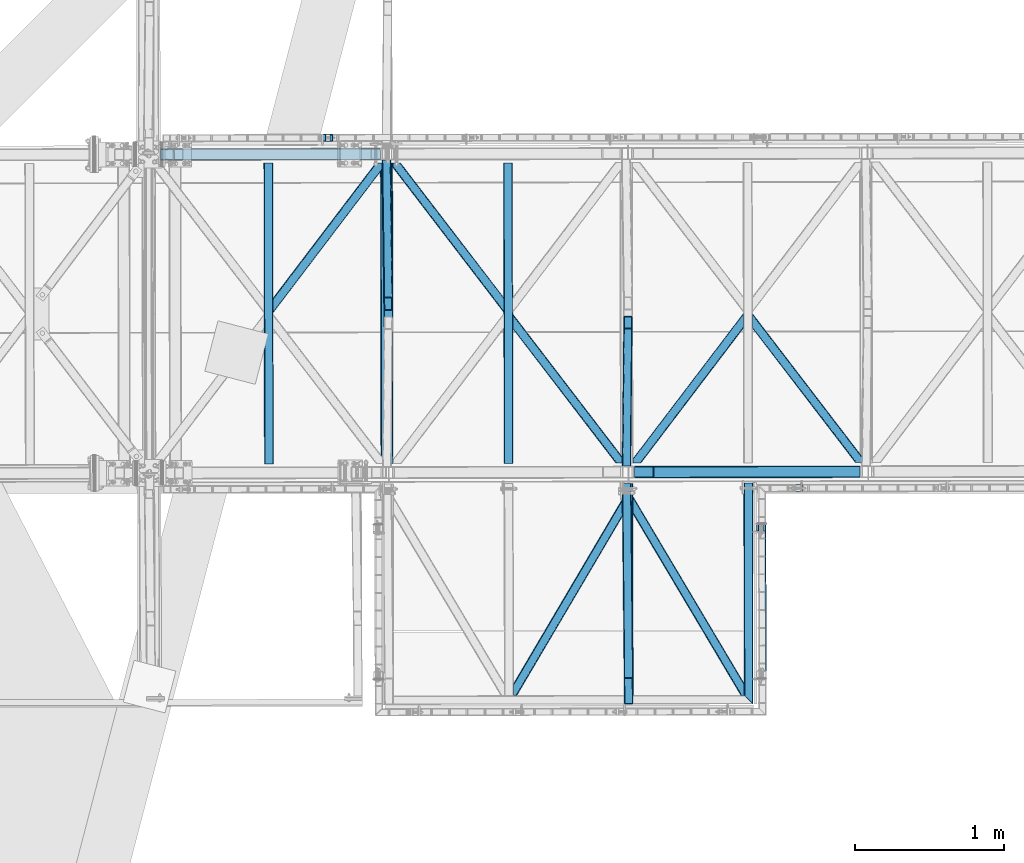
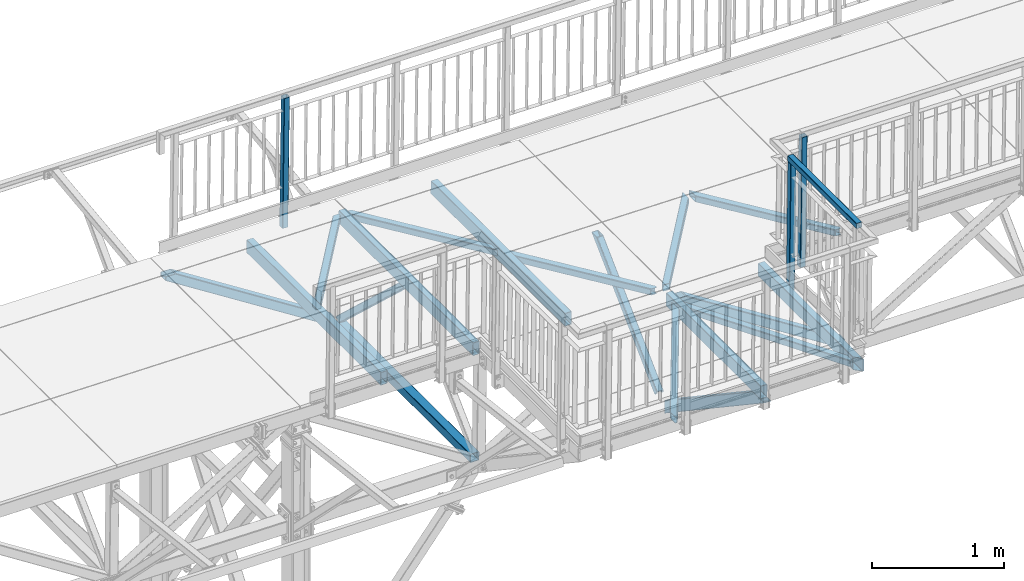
# One storey, part 56 of 169: 22 discrete accessories, 5 elements without a shape of their own.
"""IFC2X3 building model written with IfcOpenShell, lengths in millimetres."""

from ifc_helpers import new_model, si_unit, frame, origin_with_axes, origin_2d_with_axis, place, context, subcontext, project, spatial, polyline, rectangle, hollow_rectangle, outline, extrude, boolean, clip, halfspace, material, type_object, element, aggregate, save


model = new_model("IFC2X3")

# Units and contexts
model_context = context("Model", 3, precision=1e-05, world=origin_with_axes())
body_context = subcontext(model_context, "Body", "Model", "MODEL_VIEW")
ifc_project = project(units=[si_unit("LENGTHUNIT", "METRE", prefix="MILLI"), si_unit("AREAUNIT", "SQUARE_METRE"), si_unit("VOLUMEUNIT", "CUBIC_METRE"), si_unit("MASSUNIT", "GRAM", prefix="KILO"), si_unit("TIMEUNIT", "SECOND"), si_unit("PLANEANGLEUNIT", "RADIAN"), si_unit("SOLIDANGLEUNIT", "STERADIAN"), si_unit("THERMODYNAMICTEMPERATUREUNIT", "DEGREE_CELSIUS"), si_unit("LUMINOUSINTENSITYUNIT", "LUMEN")], contexts=[model_context])

# Site, building, storey
site_placement = place(None, origin_with_axes())
site = spatial("IfcSite", under=ifc_project, at=site_placement, Name="Undefined", CompositionType="ELEMENT")
building_placement = place(site_placement, origin_with_axes())
building = spatial("IfcBuilding", under=site, at=building_placement, Name="Undefined", CompositionType="ELEMENT")
storey_placement = place(building_placement, origin_with_axes())
storey = spatial("IfcBuildingStorey", under=building, at=storey_placement, Name="Undefined", CompositionType="ELEMENT", Elevation=0.0)

# Assembly, discrete accessories
assembly_1_placement = place(storey_placement, origin_with_axes())
assembly_1 = element("IfcElementAssembly", 1, at=assembly_1_placement, inside=storey, Name="Steel Assembly", AssemblyPlace="NOTDEFINED", PredefinedType="RIGID_FRAME")
ifc_material_1 = material(Name="STEEL/S355")
discrete_accessory_type_1 = type_object("IfcDiscreteAccessoryType", Name="BEAM")
discrete_accessory_1_placement = place(assembly_1_placement, frame((9342.88013170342, -47.5630628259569, 13835.4893928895), z_axis=(0.859527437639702, 0.510972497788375, -0.0109403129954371), x_axis=(0.510931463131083, -0.859597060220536, -0.00647565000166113)))
discrete_accessory_1 = element("IfcDiscreteAccessory", 2, at=discrete_accessory_1_placement, type_object=discrete_accessory_type_1, material=ifc_material_1, Name="BEAM", ObjectType="K60/4", context=body_context, shape_type="CSG", body=[
    boolean("DIFFERENCE", boolean("DIFFERENCE", boolean("DIFFERENCE", extrude(hollow_rectangle(XDim=60.0, YDim=60.0, WallThickness=4.0, InnerFilletRadius=4.0, OuterFilletRadius=8.0, at=origin_2d_with_axis()), frame((1597.10981986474, -1.81898940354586e-12, -4.35061971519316e-15), z_axis=(-1.0, -3.46944695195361e-18, -1.38777878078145e-17), x_axis=(1.73472347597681e-18, -1.0, 0.0)), (0.0, 0.0, 1.0), 1589.8), extrude(rectangle(XDim=62.0, YDim=122.0, at=origin_2d_with_axis()), frame((1692.25917883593, -3.13746253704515e-07, -66.2180064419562), z_axis=(-0.860548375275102, -1.48752412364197e-10, 0.509368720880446), x_axis=(0.509368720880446, 6.07768418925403e-11, 0.860548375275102)), (0.0, 0.0, 1.0), 260.0)), halfspace(frame((1045.20244840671, 5.58022293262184e-07, -845.267314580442), z_axis=(-0.860548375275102, -1.48752412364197e-10, 0.509368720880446), x_axis=(0.0, 1.0, 0.0)), True)), halfspace(frame((-845.267165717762, 7.34871719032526e-10, 535.185172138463), z_axis=(0.509368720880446, 6.07768418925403e-11, 0.860548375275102), x_axis=(0.0, 1.0, 0.0)), True)),
])
discrete_accessory_2_placement = place(assembly_1_placement, frame((9342.88020687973, -47.5630622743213, 13835.4893919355), z_axis=(-0.861427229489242, 0.507763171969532, 0.0109402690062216), x_axis=(-0.507721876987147, -0.861496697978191, 0.00647572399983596)))
discrete_accessory_2 = element("IfcDiscreteAccessory", 3, at=discrete_accessory_2_placement, type_object=discrete_accessory_type_1, material=ifc_material_1, Name="BEAM", ObjectType="K60/4", context=body_context, shape_type="CSG", body=[
    boolean("DIFFERENCE", boolean("DIFFERENCE", boolean("DIFFERENCE", extrude(hollow_rectangle(XDim=60.0, YDim=60.0, WallThickness=4.0, InnerFilletRadius=4.0, OuterFilletRadius=8.0, at=origin_2d_with_axis()), frame((1597.22123196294, -1.38536858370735e-15, 9.99132378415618e-13), z_axis=(-1.0, -3.46944695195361e-18, -1.38777878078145e-17), x_axis=(1.73472347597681e-18, -1.0, 0.0)), (0.0, 0.0, 1.0), 1590.02), extrude(rectangle(XDim=62.0, YDim=122.0, at=origin_2d_with_axis()), frame((1692.25891306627, 2.39566858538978e-07, -66.2179352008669), z_axis=(-0.860548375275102, -1.48752412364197e-10, 0.509368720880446), x_axis=(-0.509368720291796, -2.23282331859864e-10, -0.860548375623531)), (0.0, 0.0, 1.0), 260.0)), halfspace(frame((2063.9398899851, -1.91666913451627e-08, 875.829436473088), z_axis=(-0.860548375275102, -1.48752412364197e-10, 0.509368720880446), x_axis=(1.73472347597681e-18, -1.0, 0.0)), True)), halfspace(frame((-845.267314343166, 8.45648173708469e-09, 535.185171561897), z_axis=(0.509368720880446, 6.07768418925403e-11, 0.860548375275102), x_axis=(0.0, 1.0, 0.0)), True)),
])
discrete_accessory_3_placement = place(assembly_1_placement, frame((9329.67632224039, 90.1475203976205, 12817.1742033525), z_axis=(-0.00954354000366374, -0.554718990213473, -0.831983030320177), x_axis=(0.00860362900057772, -0.832035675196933, 0.554655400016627)))
discrete_accessory_3 = element("IfcDiscreteAccessory", 4, at=discrete_accessory_3_placement, type_object=discrete_accessory_type_1, material=ifc_material_1, Name="BEAM", ObjectType="RHS100*60*3", context=body_context, shape_type="Clipping", body=[
    clip(clip(extrude(hollow_rectangle(XDim=60.0, YDim=100.0, WallThickness=3.0, InnerFilletRadius=3.0, OuterFilletRadius=6.0, at=origin_2d_with_axis()), frame((1838.237499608, 1.81739498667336e-12, -1.51286136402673e-12), z_axis=(-1.0, -3.46944695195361e-18, -1.38777878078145e-17), x_axis=(1.73472347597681e-18, -1.0, 0.0)), (0.0, 0.0, 1.0), 1838.24), halfspace(frame((84.690342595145, 30.0, -50.0), z_axis=(-0.832050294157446, 3.38378720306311e-06, -0.554700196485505), x_axis=(-0.55470019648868, 4.88944351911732e-11, 0.83205029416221)), False)), halfspace(frame((2634.71045787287, 1.16597220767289e-09, 604.623214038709), z_axis=(-0.55470019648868, 4.88944351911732e-11, 0.83205029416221), x_axis=(1.73472347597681e-18, -1.0, 0.0)), True)),
])
discrete_accessory_4_placement = place(assembly_1_placement, frame((10147.6086376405, 63.9378286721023, 13825.2552919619), z_axis=(-0.012713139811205, -2.37511238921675e-05, -0.999919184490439), x_axis=(0.00186484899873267, -0.999998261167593, 4.28757666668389e-08)))
discrete_accessory_4 = element("IfcDiscreteAccessory", 5, at=discrete_accessory_4_placement, type_object=discrete_accessory_type_1, material=ifc_material_1, Name="BEAM", ObjectType="RHS120*60*3", context=body_context, shape_type="Clipping", body=[
    clip(clip(extrude(hollow_rectangle(XDim=60.0, YDim=120.0, WallThickness=3.0, InnerFilletRadius=3.0, OuterFilletRadius=6.0, at=origin_2d_with_axis()), frame((1500.41875808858, 1.8489777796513e-16, 4.81553515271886e-18), z_axis=(-1.0, -3.46944695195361e-18, -1.38777878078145e-17), x_axis=(1.73472347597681e-18, -1.0, 0.0)), (0.0, 0.0, 1.0), 1485.42), halfspace(frame((1500.00000029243, -30.0000000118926, 9.23155312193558e-08), z_axis=(-0.707106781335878, -0.707106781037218, 2.34571939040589e-10), x_axis=(-2.54700353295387e-10, 0.0, -1.0)), True)), halfspace(frame((14.999999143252, -1.08593667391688e-09, -159.999999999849), z_axis=(-1.0, -3.46944695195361e-18, -1.38777878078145e-17), x_axis=(0.0, 1.0, 0.0)), False)),
])
discrete_accessory_5_placement = place(assembly_1_placement, frame((9342.67507366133, 62.4367464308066, 13835.489387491), z_axis=(-0.012713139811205, -2.37511238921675e-05, -0.999919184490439), x_axis=(0.00186484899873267, -0.999998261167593, 4.28757666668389e-08)))
discrete_accessory_5 = element("IfcDiscreteAccessory", 6, at=discrete_accessory_5_placement, type_object=discrete_accessory_type_1, material=ifc_material_1, Name="BEAM", ObjectType="RHS120*60*3", context=body_context, shape_type="Clipping", body=[
    clip(clip(extrude(hollow_rectangle(XDim=60.0, YDim=120.0, WallThickness=3.0, InnerFilletRadius=3.0, OuterFilletRadius=6.0, at=origin_2d_with_axis()), frame((1439.99999969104, 4.90047387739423e-16, 6.78473390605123e-18), z_axis=(-1.0, -3.46944695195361e-18, -1.38777878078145e-17), x_axis=(1.73472347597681e-18, -1.0, 0.0)), (0.0, 0.0, 1.0), 1425.0), halfspace(frame((1439.99999981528, 6.08997652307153e-09, -1000.00000000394), z_axis=(-1.0, -3.46944695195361e-18, -1.38777878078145e-17), x_axis=(0.0, 1.0, 0.0)), True)), halfspace(frame((14.999999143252, -1.08593667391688e-09, -159.999999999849), z_axis=(-1.0, -3.46944695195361e-18, -1.38777878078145e-17), x_axis=(0.0, 1.0, 0.0)), False)),
])
aggregate(assembly_1, [discrete_accessory_1, discrete_accessory_2, discrete_accessory_3, discrete_accessory_4, discrete_accessory_5])

# Assembly, discrete accessory
assembly_2_placement = place(storey_placement, origin_with_axes())
assembly_2 = element("IfcElementAssembly", 7, at=assembly_2_placement, inside=storey, Name="Steel Assembly", AssemblyPlace="NOTDEFINED", PredefinedType="RIGID_FRAME")
discrete_accessory_6_placement = place(assembly_2_placement, frame((9342.56318086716, 122.436643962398, 13835.4892744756), z_axis=(0.538381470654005, 0.00100403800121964, 0.842700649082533), x_axis=(0.842699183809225, 0.00157148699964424, -0.538382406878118)))
discrete_accessory_6 = element("IfcDiscreteAccessory", 8, at=discrete_accessory_6_placement, type_object=discrete_accessory_type_1, material=ifc_material_1, Name="BEAM", ObjectType="K80/4", context=body_context, shape_type="CSG", body=[
    boolean("DIFFERENCE", boolean("DIFFERENCE", boolean("DIFFERENCE", boolean("DIFFERENCE", extrude(hollow_rectangle(XDim=80.0, YDim=80.0, WallThickness=4.0, InnerFilletRadius=4.0, OuterFilletRadius=8.0, at=origin_2d_with_axis()), frame((1895.28365458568, 2.8368149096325e-14, 0.0), z_axis=(-1.0, -3.46944695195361e-18, -1.38777878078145e-17), x_axis=(1.73472347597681e-18, -1.0, 0.0)), (0.0, 0.0, 1.0), 1895.28), extrude(rectangle(XDim=122.0, YDim=122.0, at=origin_2d_with_axis()), frame((1733.78268027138, -4.16628931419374e-06, 1076.88375380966), z_axis=(-0.849477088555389, 2.61340201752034e-10, -0.527625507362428), x_axis=(0.527625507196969, -3.47074672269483e-10, -0.849477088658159)), (0.0, 0.0, 1.0), 4082.0)), extrude(rectangle(XDim=82.0, YDim=82.0, at=origin_2d_with_axis()), frame((-1078.99478598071, 3.71883953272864e-07, 1737.1816513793), z_axis=(0.527625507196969, -3.47074672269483e-10, -0.849477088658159), x_axis=(1.73472347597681e-18, -1.0, 0.0)), (0.0, 0.0, 1.0), 4090.0)), extrude(rectangle(XDim=82.0, YDim=82.0, at=origin_2d_with_axis()), frame((799.406100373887, 1.9632717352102e-07, 1764.36290814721), z_axis=(0.527625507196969, -3.47074672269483e-10, -0.849477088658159), x_axis=(1.73472347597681e-18, -1.0, 0.0)), (0.0, 0.0, 1.0), 4154.0)), extrude(rectangle(XDim=122.0, YDim=122.0, at=origin_2d_with_axis()), frame((3629.06603329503, -3.96512357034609e-06, 1076.8835670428), z_axis=(-0.849477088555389, 2.61340201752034e-10, -0.527625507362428), x_axis=(0.527625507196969, -3.47074672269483e-10, -0.849477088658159)), (0.0, 0.0, 1.0), 4082.0)),
])

# Assembly, discrete accessories
assembly_3_placement = place(storey_placement, origin_with_axes())
assembly_3 = element("IfcElementAssembly", 9, at=assembly_3_placement, inside=storey, Name="Steel Assembly", AssemblyPlace="NOTDEFINED", PredefinedType="RIGID_FRAME")
discrete_accessory_7_placement = place(assembly_3_placement, frame((10145.5293282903, 1178.93599661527, 13825.2551331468), z_axis=(-0.793802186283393, -0.608092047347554, 0.0101069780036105), x_axis=(0.608043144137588, -0.793866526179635, -0.00771190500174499)))
discrete_accessory_7 = element("IfcDiscreteAccessory", 10, at=discrete_accessory_7_placement, type_object=discrete_accessory_type_1, material=ifc_material_1, Name="BEAM", ObjectType="K60/4", context=body_context, shape_type="CSG", body=[
    boolean("DIFFERENCE", boolean("DIFFERENCE", boolean("DIFFERENCE", extrude(hollow_rectangle(XDim=60.0, YDim=60.0, WallThickness=4.0, InnerFilletRadius=4.0, OuterFilletRadius=8.0, at=origin_2d_with_axis()), frame((1327.04560324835, -1.81783837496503e-12, 1.8913063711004e-12), z_axis=(-1.0, -3.46944695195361e-18, -1.38777878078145e-17), x_axis=(1.73472347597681e-18, -1.0, 0.0)), (0.0, 0.0, 1.0), 1317.77), extrude(rectangle(XDim=122.0, YDim=122.0, at=origin_2d_with_axis()), frame((2559.07206009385, 0.000108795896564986, -1614.6431455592), z_axis=(-0.606610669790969, 1.9093520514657e-10, 0.794999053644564), x_axis=(1.73472347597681e-18, -1.0, 0.0)), (0.0, 0.0, 1.0), 4062.0)), extrude(rectangle(XDim=62.0, YDim=122.0, at=origin_2d_with_axis()), frame((-311.447359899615, 7.92361939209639e-07, -1250.22452235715), z_axis=(0.794999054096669, -5.08714775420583e-10, 0.606610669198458), x_axis=(0.606610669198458, -3.85695368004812e-10, -0.79499905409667)), (0.0, 0.0, 1.0), 4122.0)), halfspace(frame((813.19737539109, -1.17615854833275e-08, 582.760697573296), z_axis=(0.606610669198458, -3.85695368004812e-10, -0.79499905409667), x_axis=(0.0, 1.0, 0.0)), True)),
])
discrete_accessory_8_placement = place(assembly_3_placement, frame((9342.56318070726, 122.436748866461, 13835.4892744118), z_axis=(0.796064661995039, -0.605127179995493, -0.0101069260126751), x_axis=(0.605078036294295, 0.796128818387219, -0.00771197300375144)))
discrete_accessory_8 = element("IfcDiscreteAccessory", 11, at=discrete_accessory_8_placement, type_object=discrete_accessory_type_1, material=ifc_material_1, Name="BEAM", ObjectType="K60/4", context=body_context, shape_type="CSG", body=[
    boolean("DIFFERENCE", boolean("DIFFERENCE", boolean("DIFFERENCE", extrude(hollow_rectangle(XDim=60.0, YDim=60.0, WallThickness=4.0, InnerFilletRadius=4.0, OuterFilletRadius=8.0, at=origin_2d_with_axis()), frame((1317.88045895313, 1.14307908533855e-15, -1.87685778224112e-12), z_axis=(-1.0, -3.46944695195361e-18, -1.38777878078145e-17), x_axis=(1.73472347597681e-18, -1.0, 0.0)), (0.0, 0.0, 1.0), 1317.88), extrude(rectangle(XDim=122.0, YDim=122.0, at=origin_2d_with_axis()), frame((1232.02617983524, 0.000108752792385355, 1614.64314702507), z_axis=(-0.606610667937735, 2.83045446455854e-10, -0.794999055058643), x_axis=(1.73472347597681e-18, -1.0, 0.0)), (0.0, 0.0, 1.0), 4062.0)), extrude(rectangle(XDim=62.0, YDim=122.0, at=origin_2d_with_axis()), frame((1638.49296551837, -1.93246750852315e-06, -1250.22451956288), z_axis=(-0.794999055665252, -4.2238609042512e-08, 0.606610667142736), x_axis=(0.606610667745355, -4.65838344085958e-10, 0.794999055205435)), (0.0, 0.0, 1.0), 4122.0)), halfspace(frame((513.848229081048, 1.26783561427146e-08, 582.760696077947), z_axis=(-0.606610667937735, 2.83045446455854e-10, -0.794999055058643), x_axis=(1.73472347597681e-18, -1.0, 0.0)), True)),
])
discrete_accessory_9_placement = place(assembly_3_placement, frame((8535.66219990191, 1175.9338321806, 13845.7233241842), z_axis=(-0.793802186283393, -0.608092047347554, 0.0101069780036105), x_axis=(0.608043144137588, -0.793866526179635, -0.00771190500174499)))
discrete_accessory_9 = element("IfcDiscreteAccessory", 12, at=discrete_accessory_9_placement, type_object=discrete_accessory_type_1, material=ifc_material_1, Name="BEAM", ObjectType="K60/4", context=body_context, shape_type="CSG", body=[
    boolean("DIFFERENCE", boolean("DIFFERENCE", boolean("DIFFERENCE", extrude(hollow_rectangle(XDim=60.0, YDim=60.0, WallThickness=4.0, InnerFilletRadius=4.0, OuterFilletRadius=8.0, at=origin_2d_with_axis()), frame((1327.04560324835, -1.81783837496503e-12, 1.8913063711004e-12), z_axis=(-1.0, -3.46944695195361e-18, -1.38777878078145e-17), x_axis=(1.73472347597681e-18, -1.0, 0.0)), (0.0, 0.0, 1.0), 1317.77), extrude(rectangle(XDim=122.0, YDim=122.0, at=origin_2d_with_axis()), frame((2559.07206009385, 0.000108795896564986, -1614.6431455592), z_axis=(-0.606610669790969, 1.9093520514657e-10, 0.794999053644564), x_axis=(1.73472347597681e-18, -1.0, 0.0)), (0.0, 0.0, 1.0), 4062.0)), extrude(rectangle(XDim=62.0, YDim=122.0, at=origin_2d_with_axis()), frame((-311.447359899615, 7.92361939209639e-07, -1250.22452235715), z_axis=(0.794999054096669, -5.08714775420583e-10, 0.606610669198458), x_axis=(0.606610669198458, -3.85695368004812e-10, -0.79499905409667)), (0.0, 0.0, 1.0), 4122.0)), halfspace(frame((813.19737539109, -1.17615854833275e-08, 582.760697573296), z_axis=(0.606610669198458, -3.85695368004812e-10, -0.79499905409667), x_axis=(0.0, 1.0, 0.0)), True)),
])
discrete_accessory_10_placement = place(assembly_3_placement, frame((7728.70527414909, 2259.43086332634, 13855.9573728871), z_axis=(-0.793802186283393, -0.608092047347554, 0.0101069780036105), x_axis=(0.608043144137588, -0.793866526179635, -0.00771190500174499)))
discrete_accessory_10 = element("IfcDiscreteAccessory", 13, at=discrete_accessory_10_placement, type_object=discrete_accessory_type_1, material=ifc_material_1, Name="BEAM", ObjectType="K60/4", context=body_context, shape_type="CSG", body=[
    boolean("DIFFERENCE", boolean("DIFFERENCE", boolean("DIFFERENCE", extrude(hollow_rectangle(XDim=60.0, YDim=60.0, WallThickness=4.0, InnerFilletRadius=4.0, OuterFilletRadius=8.0, at=origin_2d_with_axis()), frame((1317.7688721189, 1.14298229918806e-15, -1.89206883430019e-12), z_axis=(-1.0, -3.46944695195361e-18, -1.38777878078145e-17), x_axis=(1.73472347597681e-18, -1.0, 0.0)), (0.0, 0.0, 1.0), 1317.77), extrude(rectangle(XDim=122.0, YDim=122.0, at=origin_2d_with_axis()), frame((1232.02636237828, 0.000109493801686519, -1614.64300936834), z_axis=(-0.606610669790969, 1.9093520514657e-10, 0.794999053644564), x_axis=(0.0, 1.0, 0.0)), (0.0, 0.0, 1.0), 4062.0)), extrude(rectangle(XDim=62.0, YDim=122.0, at=origin_2d_with_axis()), frame((-1638.49305022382, 1.48884142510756e-06, -1250.22459069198), z_axis=(0.794999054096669, -5.08714775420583e-10, 0.606610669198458), x_axis=(0.606610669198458, -3.85695368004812e-10, -0.79499905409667)), (0.0, 0.0, 1.0), 4122.0)), halfspace(frame((2103.84633729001, 1.13759597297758e-08, 630.460640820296), z_axis=(-0.606610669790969, 1.9093520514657e-10, 0.794999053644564), x_axis=(1.73472347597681e-18, -1.0, 0.0)), True)),
])
discrete_accessory_11_placement = place(assembly_3_placement, frame((8537.62961634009, 120.935666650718, 13845.7233698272), z_axis=(0.012713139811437, 2.3750999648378e-05, 0.999919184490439), x_axis=(-0.0018648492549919, 0.999998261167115, -4.2996762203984e-08)))
discrete_accessory_11 = element("IfcDiscreteAccessory", 14, at=discrete_accessory_11_placement, type_object=discrete_accessory_type_1, material=ifc_material_1, Name="BEAM", ObjectType="RHS120*60*3", context=body_context, shape_type="Clipping", body=[
    clip(clip(extrude(hollow_rectangle(XDim=60.0, YDim=120.0, WallThickness=3.0, InnerFilletRadius=3.0, OuterFilletRadius=6.0, at=origin_2d_with_axis()), frame((2079.99988425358, -2.58114747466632e-16, -1.81898421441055e-12), z_axis=(-1.0, -3.46944695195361e-18, -1.38777878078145e-17), x_axis=(1.73472347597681e-18, -1.0, 0.0)), (0.0, 0.0, 1.0), 2020.0), halfspace(frame((2079.99984112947, 4.96547727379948e-08, 999.999997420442), z_axis=(-1.0, -3.46944695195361e-18, -1.38777878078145e-17), x_axis=(1.73472347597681e-18, -1.0, 0.0)), True)), halfspace(frame((59.9998947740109, 1.52502366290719e-08, 999.99999999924), z_axis=(1.0, 0.0, 0.0), x_axis=(0.0, 1.0, 0.0)), True)),
])

# Discrete accessory
discrete_accessory_12_placement = place(assembly_2_placement, frame((6118.83814573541, 2256.42869892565, 13876.4255639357), z_axis=(0.538381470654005, 0.00100403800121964, 0.842700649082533), x_axis=(0.842699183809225, 0.00157148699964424, -0.538382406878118)))
discrete_accessory_12 = element("IfcDiscreteAccessory", 15, at=discrete_accessory_12_placement, type_object=discrete_accessory_type_1, material=ifc_material_1, Name="BEAM", ObjectType="K80/4", context=body_context, shape_type="CSG", body=[
    boolean("DIFFERENCE", boolean("DIFFERENCE", boolean("DIFFERENCE", boolean("DIFFERENCE", extrude(hollow_rectangle(XDim=80.0, YDim=80.0, WallThickness=4.0, InnerFilletRadius=4.0, OuterFilletRadius=8.0, at=origin_2d_with_axis()), frame((1895.28365458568, 2.8368149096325e-14, 0.0), z_axis=(-1.0, -3.46944695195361e-18, -1.38777878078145e-17), x_axis=(1.73472347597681e-18, -1.0, 0.0)), (0.0, 0.0, 1.0), 1895.28), extrude(rectangle(XDim=122.0, YDim=122.0, at=origin_2d_with_axis()), frame((1716.88204289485, -0.000102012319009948, 1066.38646662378), z_axis=(-0.849477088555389, 2.61340201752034e-10, -0.527625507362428), x_axis=(-0.527625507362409, 4.58604519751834e-10, 0.849477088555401)), (0.0, 0.0, 1.0), 4042.21)), extrude(outline(polyline([(0.0, 0.0), (90.0941009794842, 2.50111042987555e-10), (90.0941009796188, 80.0000000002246), (1.40171323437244e-08, 80.0000000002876), (0.0, 0.0)])), frame((149.971323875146, 42.9999901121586, -83.5613345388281), z_axis=(1.73472347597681e-18, -1.0, 0.0), x_axis=(-0.538382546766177, -4.22125940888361e-08, 0.842700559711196)), (0.0, 0.0, 1.0), 86.0)), extrude(rectangle(XDim=82.0, YDim=82.0, at=origin_2d_with_axis()), frame((807.847426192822, 1.91307743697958e-07, 1750.77237320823), z_axis=(0.527625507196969, -3.47074672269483e-10, -0.849477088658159), x_axis=(1.73472347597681e-18, -1.0, 0.0)), (0.0, 0.0, 1.0), 4122.0)), extrude(rectangle(XDim=122.0, YDim=122.0, at=origin_2d_with_axis()), frame((3629.23882569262, -3.99359470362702e-06, 1076.99089160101), z_axis=(-0.849477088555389, 2.61340201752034e-10, -0.527625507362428), x_axis=(0.527625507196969, -3.47074672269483e-10, -0.849477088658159)), (0.0, 0.0, 1.0), 4082.41)),
])

aggregate(assembly_2, [discrete_accessory_6, discrete_accessory_12])

discrete_accessory_13_placement = place(assembly_3_placement, frame((9329.85004109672, 122.412997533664, 12835.5700898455), z_axis=(-0.0105615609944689, 0.682786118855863, -0.730541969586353), x_axis=(0.00731813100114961, 0.730615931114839, 0.682749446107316)))
discrete_accessory_13 = element("IfcDiscreteAccessory", 16, at=discrete_accessory_13_placement, type_object=discrete_accessory_type_1, material=ifc_material_1, Name="BEAM", ObjectType="K60/4", context=body_context, shape_type="CSG", body=[
    boolean("DIFFERENCE", boolean("DIFFERENCE", boolean("DIFFERENCE", boolean("DIFFERENCE", extrude(hollow_rectangle(XDim=60.0, YDim=60.0, WallThickness=4.0, InnerFilletRadius=4.0, OuterFilletRadius=8.0, at=origin_2d_with_axis()), frame((1409.62306429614, 2.44530622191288e-15, -3.48147920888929e-12), z_axis=(-1.0, -3.46944695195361e-18, -1.38777878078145e-17), x_axis=(1.73472347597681e-18, -1.0, 0.0)), (0.0, 0.0, 1.0), 1409.62), extrude(rectangle(XDim=122.0, YDim=122.0, at=origin_2d_with_axis()), frame((-3.0605420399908e-06, 2029.999999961, -0.000155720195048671), z_axis=(1.73472347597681e-18, -1.0, 0.0), x_axis=(-0.682804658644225, 7.91412114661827e-10, 0.730600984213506)), (0.0, 0.0, 1.0), 4060.0)), extrude(rectangle(XDim=82.0, YDim=82.0, at=origin_2d_with_axis()), frame((1491.15653144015, 6.98136768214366e-07, 1393.60423636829), z_axis=(-0.730600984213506, -8.41296776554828e-11, -0.682804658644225), x_axis=(0.0, 1.0, 0.0)), (0.0, 0.0, 1.0), 4082.0)), extrude(rectangle(XDim=82.0, YDim=82.0, at=origin_2d_with_axis()), frame((1393.60423162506, -1.60659598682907e-06, -1491.15668038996), z_axis=(-0.682804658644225, 7.91412114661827e-10, 0.730600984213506), x_axis=(-0.730600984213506, -8.41296776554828e-11, -0.682804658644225)), (0.0, 0.0, 1.0), 4082.0)), halfspace(frame((2154.18041553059, 4.7799403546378e-08, 726.64071778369), z_axis=(-0.682804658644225, 7.91412114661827e-10, 0.730600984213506), x_axis=(1.73472347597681e-18, -1.0, 0.0)), True)),
])

discrete_accessory_14_placement = place(assembly_3_placement, frame((7730.70066327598, 1189.43272392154, 13855.9574191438), z_axis=(-0.00801490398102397, -0.682820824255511, -0.730541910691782), x_axis=(-0.0100430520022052, 0.730583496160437, -0.682749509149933)))
discrete_accessory_14 = element("IfcDiscreteAccessory", 17, at=discrete_accessory_14_placement, type_object=discrete_accessory_type_1, material=ifc_material_1, Name="BEAM", ObjectType="K60/4", context=body_context, shape_type="CSG", body=[
    boolean("DIFFERENCE", boolean("DIFFERENCE", boolean("DIFFERENCE", boolean("DIFFERENCE", extrude(hollow_rectangle(XDim=60.0, YDim=60.0, WallThickness=4.0, InnerFilletRadius=4.0, OuterFilletRadius=8.0, at=origin_2d_with_axis()), frame((1464.54771171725, -2.54058529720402e-15, 1.73769067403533e-12), z_axis=(-1.0, -3.46944695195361e-18, -1.38777878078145e-17), x_axis=(1.73472347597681e-18, -1.0, 0.0)), (0.0, 0.0, 1.0), 1409.7), extrude(rectangle(XDim=122.0, YDim=122.0, at=origin_2d_with_axis()), frame((1464.54763377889, 2029.99999998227, -7.71977473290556e-05), z_axis=(1.73472347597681e-18, -1.0, 0.0), x_axis=(0.682804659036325, -5.74226128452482e-10, 0.730600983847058)), (0.0, 0.0, 1.0), 4060.0)), extrude(rectangle(XDim=82.0, YDim=82.0, at=origin_2d_with_axis()), frame((2955.70431769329, 3.22820304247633e-06, -1393.60430822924), z_axis=(-0.730600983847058, -6.40306815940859e-10, 0.682804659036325), x_axis=(0.0, 1.0, 0.0)), (0.0, 0.0, 1.0), 4082.0)), extrude(rectangle(XDim=82.0, YDim=82.0, at=origin_2d_with_axis()), frame((70.9434023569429, 1.26172341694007e-06, -1491.15660917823), z_axis=(0.682804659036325, -5.74226128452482e-10, 0.730600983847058), x_axis=(-0.730600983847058, -6.40306815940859e-10, 0.682804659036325)), (0.0, 0.0, 1.0), 4082.0)), halfspace(frame((-689.632704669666, -3.43825377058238e-08, 726.640717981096), z_axis=(0.682804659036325, -5.74226128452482e-10, 0.730600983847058), x_axis=(0.0, 1.0, 0.0)), True)),
])

discrete_accessory_15_placement = place(assembly_3_placement, frame((7719.98291271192, 119.410833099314, 12856.0382808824), z_axis=(0.012713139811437, 2.3750999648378e-05, 0.999919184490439), x_axis=(-0.0018648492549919, 0.999998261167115, -4.2996762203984e-08)))
discrete_accessory_15 = element("IfcDiscreteAccessory", 18, at=discrete_accessory_15_placement, type_object=discrete_accessory_type_1, material=ifc_material_1, Name="BEAM", ObjectType="K80/4", context=body_context, shape_type="Clipping", body=[
    clip(clip(extrude(hollow_rectangle(XDim=80.0, YDim=80.0, WallThickness=4.0, InnerFilletRadius=4.0, OuterFilletRadius=8.0, at=origin_2d_with_axis()), frame((2079.99999999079, 5.70364343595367e-14, -1.83064995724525e-18), z_axis=(-1.0, -3.46944695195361e-18, -1.38777878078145e-17), x_axis=(1.73472347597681e-18, -1.0, 0.0)), (0.0, 0.0, 1.0), 2020.0), halfspace(frame((2079.99999986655, -1.53990526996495e-08, 999.999999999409), z_axis=(-1.0, -3.46944695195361e-18, -1.38777878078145e-17), x_axis=(1.73472347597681e-18, -1.0, 0.0)), True)), halfspace(frame((59.9998947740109, 1.52502366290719e-08, 999.99999999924), z_axis=(1.0, 0.0, 0.0), x_axis=(0.0, 1.0, 0.0)), True)),
])

discrete_accessory_16_placement = place(assembly_3_placement, frame((6925.73912604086, 1202.93161557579, 13866.1915139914), z_axis=(0.796064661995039, -0.605127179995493, -0.0101069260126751), x_axis=(0.605078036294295, 0.796128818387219, -0.00771197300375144)))
discrete_accessory_16 = element("IfcDiscreteAccessory", 19, at=discrete_accessory_16_placement, type_object=discrete_accessory_type_1, material=ifc_material_1, Name="BEAM", ObjectType="K60/4", context=body_context, shape_type="CSG", body=[
    boolean("DIFFERENCE", boolean("DIFFERENCE", boolean("DIFFERENCE", extrude(hollow_rectangle(XDim=60.0, YDim=60.0, WallThickness=4.0, InnerFilletRadius=4.0, OuterFilletRadius=8.0, at=origin_2d_with_axis()), frame((1327.04560324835, -1.81783837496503e-12, 1.8913063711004e-12), z_axis=(-1.0, -3.46944695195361e-18, -1.38777878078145e-17), x_axis=(1.73472347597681e-18, -1.0, 0.0)), (0.0, 0.0, 1.0), 1317.88), extrude(rectangle(XDim=122.0, YDim=122.0, at=origin_2d_with_axis()), frame((2559.07166903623, 0.000108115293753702, 1614.64301073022), z_axis=(-0.606610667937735, 2.83045446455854e-10, -0.794999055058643), x_axis=(0.0, 1.0, 0.0)), (0.0, 0.0, 1.0), 4062.0)), extrude(rectangle(XDim=62.0, YDim=122.0, at=origin_2d_with_axis()), frame((2965.5386644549, -2.59535426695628e-06, -1250.22459037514), z_axis=(-0.794999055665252, -4.2238609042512e-08, 0.606610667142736), x_axis=(0.606610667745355, -4.65838344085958e-10, 0.794999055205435)), (0.0, 0.0, 1.0), 4122.0)), halfspace(frame((-776.800733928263, -1.5232217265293e-08, 630.460639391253), z_axis=(0.606610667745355, -4.65838344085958e-10, 0.794999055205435), x_axis=(0.0, 1.0, 0.0)), True)),
])

discrete_accessory_17_placement = place(assembly_3_placement, frame((7732.69605231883, 119.434584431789, 13855.9574654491), z_axis=(0.012713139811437, 2.3750999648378e-05, 0.999919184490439), x_axis=(-0.0018648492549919, 0.999998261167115, -4.2996762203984e-08)))
discrete_accessory_17 = element("IfcDiscreteAccessory", 20, at=discrete_accessory_17_placement, type_object=discrete_accessory_type_1, material=ifc_material_1, Name="BEAM", ObjectType="RHS120*60*3", context=body_context, shape_type="Clipping", body=[
    clip(clip(extrude(hollow_rectangle(XDim=60.0, YDim=120.0, WallThickness=3.0, InnerFilletRadius=3.0, OuterFilletRadius=6.0, at=origin_2d_with_axis()), frame((2079.99988425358, -2.58114747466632e-16, -1.81898421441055e-12), z_axis=(-1.0, -3.46944695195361e-18, -1.38777878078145e-17), x_axis=(1.73472347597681e-18, -1.0, 0.0)), (0.0, 0.0, 1.0), 2020.0), halfspace(frame((2079.99984112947, 4.96547727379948e-08, 999.999997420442), z_axis=(-1.0, -3.46944695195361e-18, -1.38777878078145e-17), x_axis=(1.73472347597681e-18, -1.0, 0.0)), True)), halfspace(frame((59.9998947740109, 1.52502366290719e-08, 999.99999999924), z_axis=(1.0, 0.0, 0.0), x_axis=(0.0, 1.0, 0.0)), True)),
])

discrete_accessory_18_placement = place(assembly_3_placement, frame((6927.76248796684, 117.93350221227, 13866.1915608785), z_axis=(0.012713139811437, 2.3750999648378e-05, 0.999919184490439), x_axis=(-0.0018648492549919, 0.999998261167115, -4.2996762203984e-08)))
discrete_accessory_18 = element("IfcDiscreteAccessory", 21, at=discrete_accessory_18_placement, type_object=discrete_accessory_type_1, material=ifc_material_1, Name="BEAM", ObjectType="RHS120*60*3", context=body_context, shape_type="Clipping", body=[
    clip(clip(extrude(hollow_rectangle(XDim=60.0, YDim=120.0, WallThickness=3.0, InnerFilletRadius=3.0, OuterFilletRadius=6.0, at=origin_2d_with_axis()), frame((2079.99988425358, -2.58114747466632e-16, -1.81898421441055e-12), z_axis=(-1.0, -3.46944695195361e-18, -1.38777878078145e-17), x_axis=(1.73472347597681e-18, -1.0, 0.0)), (0.0, 0.0, 1.0), 2020.0), halfspace(frame((2079.99984112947, 4.96547727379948e-08, 999.999997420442), z_axis=(-1.0, -3.46944695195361e-18, -1.38777878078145e-17), x_axis=(1.73472347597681e-18, -1.0, 0.0)), True)), halfspace(frame((59.9998947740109, 1.52502366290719e-08, 999.99999999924), z_axis=(1.0, 0.0, 0.0), x_axis=(0.0, 1.0, 0.0)), True)),
])

aggregate(assembly_3, [discrete_accessory_7, discrete_accessory_8, discrete_accessory_9, discrete_accessory_10, discrete_accessory_11, discrete_accessory_13, discrete_accessory_14, discrete_accessory_15, discrete_accessory_16, discrete_accessory_17, discrete_accessory_18])

# Assembly, discrete accessories
assembly_4_placement = place(storey_placement, origin_with_axes())
assembly_4 = element("IfcElementAssembly", 22, at=assembly_4_placement, inside=storey, Name="Steel Assembly", AssemblyPlace="NOTDEFINED", PredefinedType="RIGID_FRAME")
ifc_material_2 = material(Name="STEEL/S235")
discrete_accessory_type_2 = type_object("IfcDiscreteAccessoryType", Name="PORĘCZ")
discrete_accessory_19_placement = place(assembly_4_placement, frame((10244.8202003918, -1260.88313857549, 14984.1445499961), z_axis=(-0.999917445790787, -0.00186469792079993, 0.0127131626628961), x_axis=(-0.0018648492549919, 0.999998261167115, -4.2996762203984e-08)))
discrete_accessory_19 = element("IfcDiscreteAccessory", 23, at=discrete_accessory_19_placement, type_object=discrete_accessory_type_2, material=ifc_material_2, Name="PORĘCZ", ObjectType="RHS50*3", context=body_context, shape_type="SweptSolid", body=[
    extrude(hollow_rectangle(XDim=50.0, YDim=50.0, WallThickness=3.0, InnerFilletRadius=3.0, OuterFilletRadius=6.0, at=origin_2d_with_axis()), frame((1035.00000008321, -1.81899111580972e-12, -3.89791946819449e-16), z_axis=(-1.0, -3.46944695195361e-18, -1.38777878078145e-17), x_axis=(1.73472347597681e-18, -1.0, 0.0)), (0.0, 0.0, 1.0), 1035.0),
])
discrete_accessory_type_3 = type_object("IfcDiscreteAccessoryType", Name="STANCHION")
discrete_accessory_20_placement = place(assembly_4_placement, frame((10228.9522486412, -250.911020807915, 13884.2334036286), z_axis=(0.9999174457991, 0.00186469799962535, -0.0127131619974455), x_axis=(0.012713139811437, 2.3750999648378e-05, 0.999919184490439)))
discrete_accessory_20 = element("IfcDiscreteAccessory", 24, at=discrete_accessory_20_placement, type_object=discrete_accessory_type_3, material=ifc_material_2, Name="STANCHION", ObjectType="SHS50*3", context=body_context, shape_type="Clipping", body=[
    clip(clip(extrude(hollow_rectangle(XDim=50.0, YDim=50.0, WallThickness=3.0, InnerFilletRadius=3.0, OuterFilletRadius=6.0, at=origin_2d_with_axis()), frame((1074.99999999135, -5.68489533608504e-14, -9.13224357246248e-13), z_axis=(-1.0, -3.46944695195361e-18, -1.38777878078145e-17), x_axis=(1.73472347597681e-18, -1.0, 0.0)), (0.0, 0.0, 1.0), 1195.0), halfspace(frame((1074.99999980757, 2.61036348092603e-09, -999.999999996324), z_axis=(-1.0, -3.46944695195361e-18, -1.38777878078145e-17), x_axis=(0.0, 1.0, 0.0)), True)), halfspace(frame((-120.000000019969, -1025.00000000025, -5.14306819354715e-10), z_axis=(1.0, 0.0, 0.0), x_axis=(0.0, 0.0, 1.0)), True)),
])

# Assembly, discrete accessory
assembly_5_placement = place(storey_placement, origin_with_axes())
assembly_5 = element("IfcElementAssembly", 25, at=assembly_5_placement, inside=storey, Name="Steel Assembly", AssemblyPlace="NOTDEFINED", PredefinedType="RIGID_FRAME")
discrete_accessory_21_placement = place(assembly_5_placement, frame((7318.49126632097, 2368.66596343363, 13921.1752684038), z_axis=(-0.0018648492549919, 0.999998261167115, -4.2996762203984e-08), x_axis=(0.012713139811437, 2.3750999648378e-05, 0.999919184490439)))
discrete_accessory_21 = element("IfcDiscreteAccessory", 26, at=discrete_accessory_21_placement, type_object=discrete_accessory_type_3, material=ifc_material_2, Name="STANCHION", ObjectType="SHS50*3", context=body_context, shape_type="Clipping", body=[
    clip(clip(extrude(hollow_rectangle(XDim=50.0, YDim=50.0, WallThickness=3.0, InnerFilletRadius=3.0, OuterFilletRadius=6.0, at=origin_2d_with_axis()), frame((1074.99999999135, -5.68489533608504e-14, -9.13224357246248e-13), z_axis=(-1.0, -3.46944695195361e-18, -1.38777878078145e-17), x_axis=(1.73472347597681e-18, -1.0, 0.0)), (0.0, 0.0, 1.0), 1195.0), halfspace(frame((1074.99999999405, -25.000000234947, -7.63429852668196e-09), z_axis=(1.0, 0.0, 0.0), x_axis=(0.0, 0.0, 1.0)), False)), halfspace(frame((-120.000000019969, -1025.00000000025, -5.14306819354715e-10), z_axis=(1.0, 0.0, 0.0), x_axis=(0.0, 0.0, 1.0)), True)),
])
aggregate(assembly_5, [discrete_accessory_21])

# Discrete accessory
discrete_accessory_22_placement = place(assembly_4_placement, frame((10478.3343428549, 14.5544987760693, 13881.0564125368), z_axis=(0.00186484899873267, -0.999998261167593, 4.28757666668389e-08), x_axis=(0.012713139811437, 2.3750999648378e-05, 0.999919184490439)))
discrete_accessory_22 = element("IfcDiscreteAccessory", 27, at=discrete_accessory_22_placement, type_object=discrete_accessory_type_3, material=ifc_material_2, Name="STANCHION", ObjectType="SHS50*3", context=body_context, shape_type="Clipping", body=[
    clip(clip(extrude(hollow_rectangle(XDim=50.0, YDim=50.0, WallThickness=3.0, InnerFilletRadius=3.0, OuterFilletRadius=6.0, at=origin_2d_with_axis()), frame((1074.99999999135, -5.68489533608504e-14, -9.13224357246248e-13), z_axis=(-1.0, -3.46944695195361e-18, -1.38777878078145e-17), x_axis=(1.73472347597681e-18, -1.0, 0.0)), (0.0, 0.0, 1.0), 1195.0), halfspace(frame((1074.99999979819, -3.79020548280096e-09, 999.999999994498), z_axis=(-1.0, -3.46944695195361e-18, -1.38777878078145e-17), x_axis=(1.73472347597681e-18, -1.0, 0.0)), True)), halfspace(frame((-120.000000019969, -1025.00000000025, -5.14306819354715e-10), z_axis=(1.0, 0.0, 0.0), x_axis=(0.0, 0.0, 1.0)), True)),
])

aggregate(assembly_4, [discrete_accessory_19, discrete_accessory_20, discrete_accessory_22])

save(model, "model.ifc")
